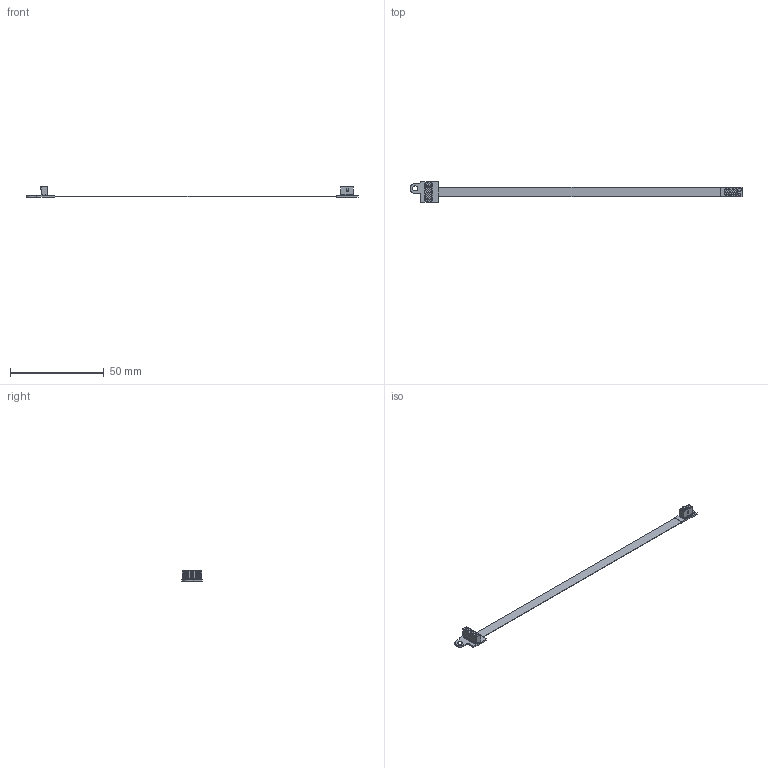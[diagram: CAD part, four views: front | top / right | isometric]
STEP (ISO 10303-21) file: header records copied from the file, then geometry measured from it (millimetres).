
FILE_DESCRIPTION(/* description */ ('VX1927J DAP-IFX FlexPCB for VX154x'),/* implementation_level */ '2;1');
FILE_NAME(/* name */ 'C:\Users\TeamCenterSystem\Documents\Inventor\ASY_000679_CUST_iam.STP',/* time_stamp */ '2025-01-03T10:42:56+01:00',/* author */ ('vista'),/* organization */ (''),/* preprocessor_version */ 'ST-DEVELOPER v18.1',/* originating_system */ 'Autodesk Inventor 2022',/* authorisation */ '');
FILE_SCHEMA (('AUTOMOTIVE_DESIGN { 1 0 10303 214 3 1 1 }'));
Length unit declared in the file: millimetre
Products named in the file (2): ASY_000679_CUST; ASY_000679
Assembly tree (1 placements, depth 2):
  ASY_000679_CUST
    ASY_000679
Bounding box: 176.75 x 11 x 5.58 mm (x, y, z)
Volume: 545.4 mm3; surface area: 2712.9 mm2
Topology: 7 solids, 7 shells, 844 faces, 2251 edges, 1466 vertices
Faces by surface type: plane 653, cylinder 188, bspline 2, cone 1
Full cylindrical faces by diameter (mm): 1.2 x1, 1.8 x1
Entity records: 26558 total; most frequent: CARTESIAN_POINT 4594, ORIENTED_EDGE 4502, DIRECTION 4315, EDGE_CURVE 2251, LINE 1869, VECTOR 1869, VERTEX_POINT 1466, AXIS2_PLACEMENT_3D 1223
